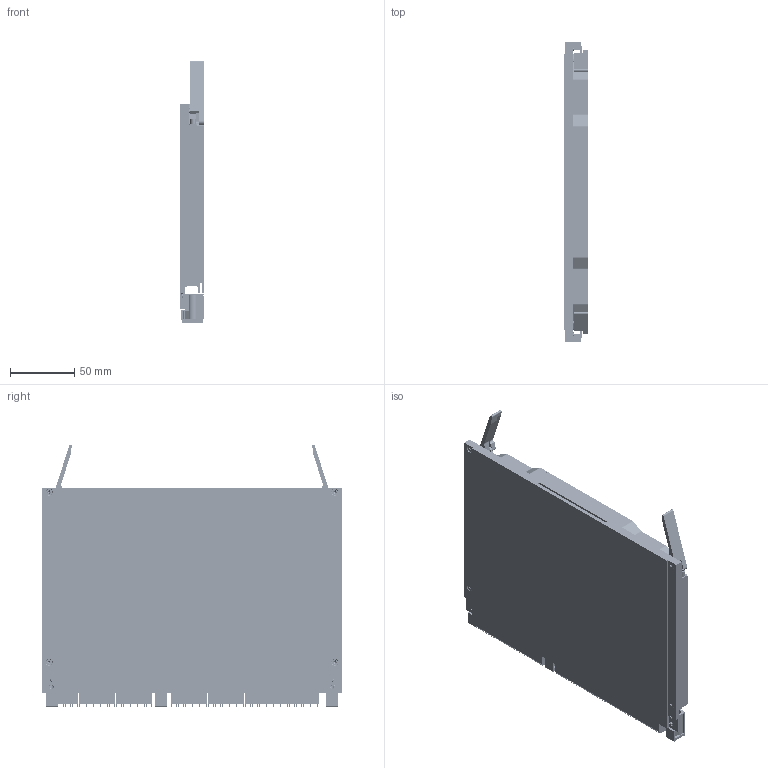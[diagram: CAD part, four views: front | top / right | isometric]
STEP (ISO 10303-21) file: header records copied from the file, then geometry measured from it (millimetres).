
FILE_DESCRIPTION (( 'STEP AP214' ), '1' );
FILE_NAME ('6U-VPX48.2-PS-260-82793 OPEN.STEP', '2018-06-18T21:06:17', ( '' ), ( '' ), 'SwSTEP 2.0', 'SolidWorks 2014', '' );
FILE_SCHEMA (( 'AUTOMOTIVE_DESIGN' ));
Length unit declared in the file: millimetre
Products named in the file (21): 1410189-3; 1774226_1-1469492-9; 1410187-3; VPX BOARD_6UVPX48.2; CCA FRAME ASSEMBLY_82793_6UVPX48.2-800-260 FRAME ASSY FULLY EXTRACTED; 260-4.80; 480-023_SDG; 322307-18_92010A016; 82793-F_82793R-F-NLE; 82793-F_82793L-F-NLE; PMC-XMC COVER; FRAME_82793_6UVPX48.2-800-260 PSR; SECONDARY SIDE COVER; Single Mezzanine board assembly; 6U-VPX48.2-PS-260-82793 OPEN; c-2102060-1-e-3d; 714362164; PMC-XMC BOARD_PMC XMC VITA 20 VITA 42; VPX BOARD ASSEMBLY_6UXMC VITA 42 board only; 714390164; c-2102061-1-g-3d
Assembly tree (56 placements, depth 3):
  6U-VPX48.2-PS-260-82793 OPEN
    CCA FRAME ASSEMBLY_82793_6UVPX48.2-800-260 FRAME ASSY FULLY EXTRACTED
      FRAME_82793_6UVPX48.2-800-260 PSR
      82793-F_82793L-F-NLE
      82793-F_82793R-F-NLE
      322307-18_92010A016  x6
      480-023_SDG  x2
      260-4.80  x2
    322307-18_92010A016  x14
    VPX BOARD ASSEMBLY_6UXMC VITA 42 board only
      VPX BOARD_6UVPX48.2
      1410187-3  x6
      1774226_1-1469492-9  x3
      1410189-3
      c-2102061-1-g-3d  x2
      714390164  x4
    Single Mezzanine board assembly
      PMC-XMC BOARD_PMC XMC VITA 20 VITA 42
      714362164  x4
      c-2102060-1-e-3d  x2
    SECONDARY SIDE COVER
    PMC-XMC COVER
Bounding box: 19.09 x 233.35 x 203.87 mm (x, y, z)
Volume: 322365.5 mm3; surface area: 370327.8 mm2
Topology: 309 solids, 311 shells, 25033 faces, 67223 edges, 44359 vertices
Faces by surface type: plane 21577, cylinder 2533, bspline 583, cone 340
Full cylindrical faces by diameter (mm): 0.43 x26, 0.5 x228, 1.05 x33, 1.2 x16, 1.6 x10, 1.778 x6, 2.05 x2, 2.2 x15, 2.381 x8, 2.5 x200, 2.55 x22, 2.7 x20, 2.845 x2, 2.9 x10, 2.921 x2, 3 x3, 3.1 x8, 4.648 x2, 4.65 x3, 5.5 x18, 5.9 x3
Entity records: 258325 total; most frequent: CARTESIAN_POINT 66410, ORIENTED_EDGE 39472, DIRECTION 36229, EDGE_CURVE 19736, VECTOR 17343, LINE 17343, VERTEX_POINT 13248, EDGE_LOOP 9508
